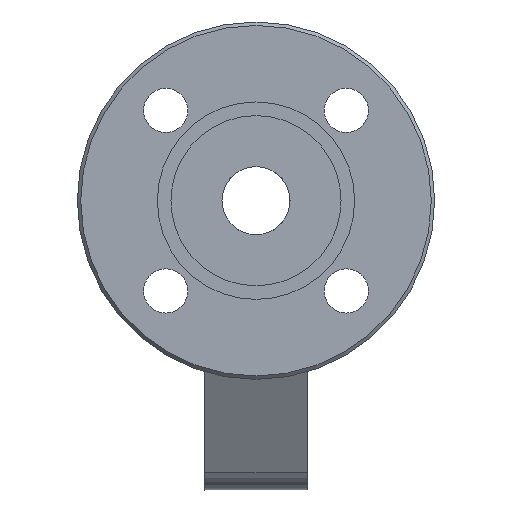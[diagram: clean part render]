
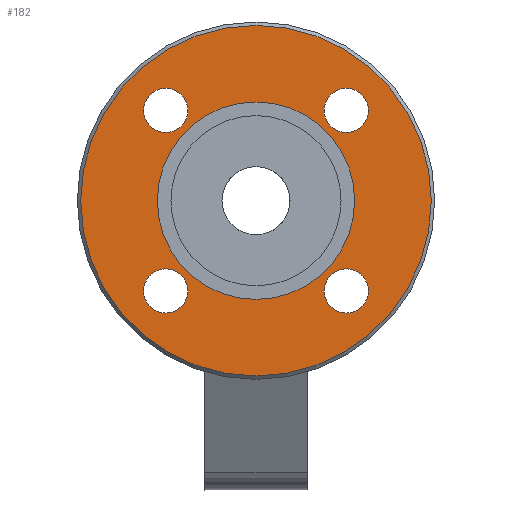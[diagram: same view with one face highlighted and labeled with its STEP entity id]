
A CAD part, left-side view. The second image highlights one B-rep face of the part: STEP entity #182.
In plain terms, the highlighted planar face has unit normal (-1, 0, 0).
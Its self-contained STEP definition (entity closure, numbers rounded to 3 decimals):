
#182=ADVANCED_FACE('',(#1483,#1485,#1487,#1489,#1491,#1493),#1495,.T.);
#1483=FACE_BOUND('',#1484,.T.);
#1484=EDGE_LOOP('',(#2361));
#1485=FACE_BOUND('',#1486,.T.);
#1486=EDGE_LOOP('',(#2362));
#1487=FACE_BOUND('',#1488,.T.);
#1488=EDGE_LOOP('',(#2363));
#1489=FACE_BOUND('',#1490,.T.);
#1490=EDGE_LOOP('',(#2364));
#1491=FACE_BOUND('',#1492,.T.);
#1492=EDGE_LOOP('',(#2365));
#1493=FACE_OUTER_BOUND('',#1494,.T.);
#1494=EDGE_LOOP('',(#2366));
#1495=PLANE('',#1496);
#1496=AXIS2_PLACEMENT_3D('',#1497,#1498,#1499);
#1497=CARTESIAN_POINT('',(-56.,0.,0.));
#1498=DIRECTION('',(-1.,0.,0.));
#1499=DIRECTION('',(0.,1.,0.));
#2361=ORIENTED_EDGE('',*,*,#3182,.T.);
#2362=ORIENTED_EDGE('',*,*,#3183,.T.);
#2363=ORIENTED_EDGE('',*,*,#3184,.T.);
#2364=ORIENTED_EDGE('',*,*,#3185,.T.);
#2365=ORIENTED_EDGE('',*,*,#3159,.T.);
#2366=ORIENTED_EDGE('',*,*,#3186,.F.);
#3159=EDGE_CURVE('',#3563,#3563,#3564,.T.);
#3182=EDGE_CURVE('',#3598,#3598,#3599,.F.);
#3183=EDGE_CURVE('',#3600,#3600,#3601,.F.);
#3184=EDGE_CURVE('',#3602,#3602,#3603,.F.);
#3185=EDGE_CURVE('',#3604,#3604,#3605,.F.);
#3186=EDGE_CURVE('',#3606,#3606,#3607,.T.);
#3563=VERTEX_POINT('',#4981);
#3564=CIRCLE('',#4982,29.);
#3598=VERTEX_POINT('',#5070);
#3599=CIRCLE('',#5071,6.5);
#3600=VERTEX_POINT('',#5075);
#3601=CIRCLE('',#5076,6.5);
#3602=VERTEX_POINT('',#5080);
#3603=CIRCLE('',#5081,6.5);
#3604=VERTEX_POINT('',#5085);
#3605=CIRCLE('',#5086,6.5);
#3606=VERTEX_POINT('',#5090);
#3607=CIRCLE('',#5091,51.5);
#4981=CARTESIAN_POINT('',(-56.,29.,0.));
#4982=AXIS2_PLACEMENT_3D('',#4983,#4984,#4985);
#4983=CARTESIAN_POINT('',(-56.,0.,0.));
#4984=DIRECTION('',(1.,0.,0.));
#4985=DIRECTION('',(0.,1.,0.));
#5070=CARTESIAN_POINT('',(-56.,-26.517,-33.017));
#5071=AXIS2_PLACEMENT_3D('',#5072,#5073,#5074);
#5072=CARTESIAN_POINT('',(-56.,-26.517,-26.517));
#5073=DIRECTION('',(-1.,0.,0.));
#5074=DIRECTION('',(0.,0.,-1.));
#5075=CARTESIAN_POINT('',(-56.,-33.017,26.517));
#5076=AXIS2_PLACEMENT_3D('',#5077,#5078,#5079);
#5077=CARTESIAN_POINT('',(-56.,-26.517,26.517));
#5078=DIRECTION('',(-1.,0.,0.));
#5079=DIRECTION('',(0.,-1.,0.));
#5080=CARTESIAN_POINT('',(-56.,26.517,33.017));
#5081=AXIS2_PLACEMENT_3D('',#5082,#5083,#5084);
#5082=CARTESIAN_POINT('',(-56.,26.517,26.517));
#5083=DIRECTION('',(-1.,0.,0.));
#5084=DIRECTION('',(0.,0.,1.));
#5085=CARTESIAN_POINT('',(-56.,33.017,-26.517));
#5086=AXIS2_PLACEMENT_3D('',#5087,#5088,#5089);
#5087=CARTESIAN_POINT('',(-56.,26.517,-26.517));
#5088=DIRECTION('',(-1.,0.,0.));
#5089=DIRECTION('',(0.,1.,0.));
#5090=CARTESIAN_POINT('',(-56.,51.5,0.));
#5091=AXIS2_PLACEMENT_3D('',#5092,#5093,#5094);
#5092=CARTESIAN_POINT('',(-56.,0.,0.));
#5093=DIRECTION('',(1.,0.,0.));
#5094=DIRECTION('',(0.,1.,0.));
